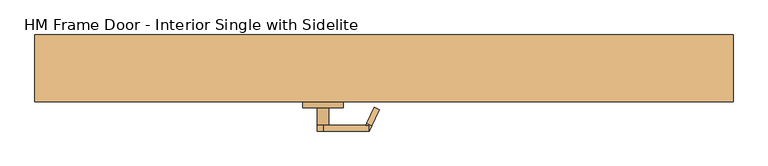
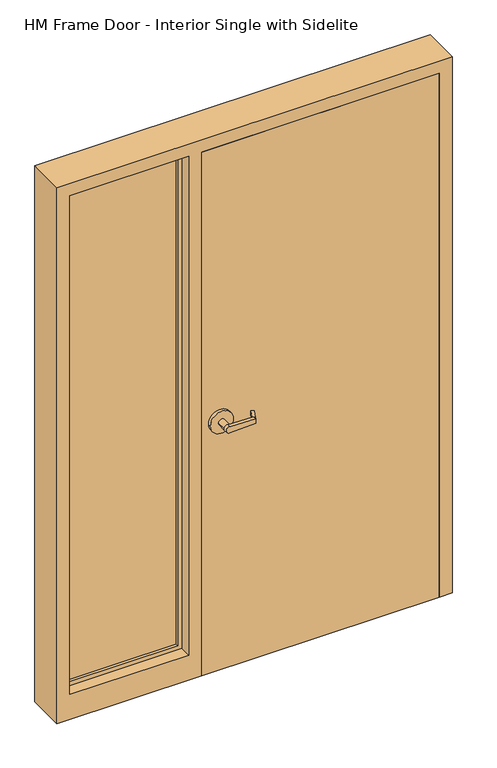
"""IFC4 building model written with IfcOpenShell, lengths in millimetres: door geometry."""

from ifc_helpers import new_model, si_unit, frame, origin, origin_with_axes, place, context, project, spatial, polyline, circle_curve, outline, extrude, faceted_brep, source, transform, mapped, element, save
from ifc_brep_helpers import plane_surface, cylinder_surface, advanced_brep


def hm_frame_door_interior_single_with_sidelite_94e37508(model_context):
    return source(origin(), model_context, "Body", "SolidModel", [
        advanced_brep(
        [(-291.892857, 18.0476392, 1025.525), (-293.8407923, 22.225, 1025.525), (-293.8407923, 22.225, 1006.475), (-291.892857, 18.0476392, 1006.475), (-275.7911012, -16.4826875, 1009.65), (-275.7911012, -16.4826875, 1022.35), (-285.75, 34.925, 1006.475), (-285.75, 34.925, 1025.525), (-280.3827481, 23.4148911, 1025.525), (-264.2809923, -11.1154356, 1022.35), (-264.2809923, -11.1154356, 1009.65), (-280.3827481, 23.4148911, 1006.475), (-285.75, 22.225, 1025.525), (-285.75, 22.225, 1006.475), (-386.9525418, 34.925, 1003.3062209), (-386.9525418, 34.925, 1028.6937791), (-386.9525418, 22.225, 1028.6937791), (-374.65, 22.225, 1016.0), (-386.9525418, 22.225, 1003.3062209), (-400.05, 22.225, 1016.0), (-374.65, -15.875, 1016.0), (-400.05, -15.875, 1016.0), (-431.8, -15.875, 1016.0), (-342.9, -15.875, 1016.0), (-431.8, -28.575, 1016.0), (-342.9, -28.575, 1016.0)],
        [
            (0, 1),
            (1, 2),
            (2, 3),
            (3, 4),
            (4, 5),
            (5, 0),
            (6, 7),
            (7, 8),
            (8, 9),
            (9, 10),
            (10, 11),
            (11, 6),
            (7, 12),
            (12, 1),
            (0, 8),
            (5, 9),
            (4, 10),
            (3, 11),
            (2, 13),
            (13, 6),
            (6, 14),
            (14, 15, circle_curve(frame((-387.35, 34.925, 1016.0), z_axis=(0.0, 1.0, 0.0), x_axis=(1.0, 0.0, 0.0)), 12.7)),
            (15, 7),
            (12, 16),
            (16, 17, circle_curve(frame((-387.35, 22.225, 1016.0), z_axis=(0.0, 1.0, 0.0), x_axis=(1.0, 0.0, 0.0)), 12.7)),
            (17, 18, circle_curve(frame((-387.35, 22.225, 1016.0), z_axis=(0.0, 1.0, 0.0), x_axis=(1.0, 0.0, 0.0)), 12.7)),
            (18, 13),
            (15, 16),
            (14, 18),
            (18, 19, circle_curve(frame((-387.35, 22.225, 1016.0), z_axis=(0.0, 1.0, 0.0), x_axis=(1.0, 0.0, 0.0)), 12.7)),
            (19, 16, circle_curve(frame((-387.35, 22.225, 1016.0), z_axis=(0.0, 1.0, 0.0), x_axis=(1.0, 0.0, 0.0)), 12.7)),
            (17, 20),
            (20, 21, circle_curve(frame((-387.35, -15.875, 1016.0), z_axis=(0.0, 1.0, 0.0), x_axis=(1.0, 0.0, 0.0)), 12.7)),
            (21, 19),
            (21, 20, circle_curve(frame((-387.35, -15.875, 1016.0), z_axis=(0.0, 1.0, 0.0), x_axis=(1.0, 0.0, 0.0)), 12.7)),
            (22, 23, circle_curve(frame((-387.35, -15.875, 1016.0), z_axis=(0.0, 1.0, 0.0), x_axis=(1.0, 0.0, 0.0)), 44.45)),
            (23, 22, circle_curve(frame((-387.35, -15.875, 1016.0), z_axis=(0.0, 1.0, 0.0), x_axis=(1.0, 0.0, 0.0)), 44.45)),
            (24, 25, circle_curve(frame((-387.35, -28.575, 1016.0), z_axis=(0.0, -1.0, 0.0), x_axis=(1.0, 0.0, 0.0)), 44.45)),
            (25, 24, circle_curve(frame((-387.35, -28.575, 1016.0), z_axis=(0.0, -1.0, 0.0), x_axis=(1.0, 0.0, 0.0)), 44.45)),
            (23, 25),
            (24, 22),
        ],
        [
            plane_surface(frame((-297.2601089, 29.5577481, 1025.525), z_axis=(-0.9063077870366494, -0.4226182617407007, 0.0), x_axis=(0.0, 0.0, 1.0))),
            plane_surface(frame((-285.75, 34.925, 1025.525), z_axis=(0.9063077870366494, 0.4226182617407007, 0.0), x_axis=(0.0, 0.0, -1.0))),
            plane_surface(frame((-297.2601089, 29.5577481, 1025.525), z_axis=(0.0, 0.0, 1.0000000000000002), x_axis=(0.9063077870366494, 0.42261826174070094, 0.0))),
            plane_surface(frame((-291.892857, 18.0476392, 1025.525), z_axis=(0.035096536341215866, -0.07526476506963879, 0.9965457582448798), x_axis=(0.9063077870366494, 0.42261826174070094, 0.0))),
            plane_surface(frame((-275.7911012, -16.4826875, 1022.35), z_axis=(0.42261826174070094, -0.9063077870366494, 0.0), x_axis=(0.9063077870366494, 0.42261826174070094, 0.0))),
            plane_surface(frame((-275.7911012, -16.4826875, 1009.65), z_axis=(0.03509653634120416, -0.07526476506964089, -0.9965457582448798), x_axis=(0.9063077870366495, 0.42261826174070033, 0.0))),
            plane_surface(frame((-291.892857, 18.0476392, 1006.475), z_axis=(0.0, 0.0, -1.0000000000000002), x_axis=(0.9063077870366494, 0.42261826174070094, 0.0))),
            plane_surface(frame((-285.75, 34.925, 1025.525), z_axis=(0.0, 1.0, 0.0), x_axis=(-0.9995101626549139, 0.0, 0.03129592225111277))),
            plane_surface(frame((-285.75, 22.225, 1025.525), z_axis=(0.0, -1.0, 0.0), x_axis=(0.9995101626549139, 0.0, -0.03129592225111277))),
            plane_surface(frame((-285.75, 34.925, 1025.525), z_axis=(0.03129592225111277, 0.0, 0.9995101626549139), x_axis=(0.0, -1.0, 0.0))),
            cylinder_surface(frame((-387.35, 22.225, 1016.0), z_axis=(0.0, 1.0, 0.0), x_axis=(1.0, 0.0, 0.0)), 12.7),
            plane_surface(frame((-386.9525418, 34.925, 1003.3062209), z_axis=(0.03129592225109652, 0.0, -0.9995101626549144), x_axis=(0.0, -1.0, 0.0))),
            cylinder_surface(frame((-387.35, -15.875, 1016.0), z_axis=(0.0, 1.0, 0.0), x_axis=(1.0, 0.0, 0.0)), 12.7),
            plane_surface(frame((-342.9, -15.875, 1016.0), z_axis=(0.0, 1.0, 0.0), x_axis=(0.0, 0.0, 1.0))),
            plane_surface(frame((-342.9, -28.575, 1016.0), z_axis=(0.0, -1.0, 0.0), x_axis=(0.0, 0.0, -1.0))),
            cylinder_surface(frame((-387.35, -28.575, 1016.0), z_axis=(0.0, 1.0, 0.0), x_axis=(1.0, 0.0, 0.0)), 44.45),
        ],
        [
            (0, [[1, 2, 3, 4, 5, 6]]),
            (1, [[7, 8, 9, 10, 11, 12]]),
            (2, [[13, 14, -1, 15, -8]]),
            (3, [[16, -9, -15, -6]]),
            (4, [[17, -10, -16, -5]]),
            (5, [[18, -11, -17, -4]]),
            (6, [[-18, -3, 19, 20, -12]]),
            (7, [[-7, 21, 22, 23]]),
            (8, [[-19, -2, -14, 24, 25, 26, 27]]),
            (9, [[28, -24, -13, -23]]),
            (10, [[29, 30, 31, -28, -22]]),
            (11, [[-20, -27, -29, -21]]),
            (12, [[-30, -26, 32, 33, 34]]),
            (12, [[35, -32, -25, -31, -34]]),
            (13, [[36, 37], [-35, -33]]),
            (14, [[38, 39]]),
            (15, [[40, -38, 41, -37]]),
            (15, [[-41, -39, -40, -36]]),
        ],
    ),
        advanced_brep(
        [(-291.892857, -119.6476392, 1006.475), (-293.8407923, -123.825, 1006.475), (-293.8407923, -123.825, 1025.525), (-291.892857, -119.6476392, 1025.525), (-275.7911012, -85.1173125, 1022.35), (-275.7911012, -85.1173125, 1009.65), (-285.75, -136.525, 1025.525), (-285.75, -136.525, 1006.475), (-280.3827481, -125.0148911, 1006.475), (-264.2809923, -90.4845644, 1009.65), (-264.2809923, -90.4845644, 1022.35), (-280.3827481, -125.0148911, 1025.525), (-285.75, -123.825, 1006.475), (-285.75, -123.825, 1025.525), (-386.9525418, -136.525, 1028.6937791), (-386.9525418, -136.525, 1003.3062209), (-386.9525418, -123.825, 1003.3062209), (-374.65, -123.825, 1016.0), (-386.9525418, -123.825, 1028.6937791), (-400.05, -123.825, 1016.0), (-374.65, -85.725, 1016.0), (-400.05, -85.725, 1016.0), (-431.8, -85.725, 1016.0), (-342.9, -85.725, 1016.0), (-431.8, -73.025, 1016.0), (-342.9, -73.025, 1016.0)],
        [
            (0, 1),
            (1, 2),
            (2, 3),
            (3, 4),
            (4, 5),
            (5, 0),
            (6, 7),
            (7, 8),
            (8, 9),
            (9, 10),
            (10, 11),
            (11, 6),
            (7, 12),
            (12, 1),
            (0, 8),
            (5, 9),
            (4, 10),
            (3, 11),
            (2, 13),
            (13, 6),
            (6, 14),
            (14, 15, circle_curve(frame((-387.35, -136.525, 1016.0), z_axis=(0.0, -1.0, 0.0), x_axis=(1.0, 0.0, 0.0)), 12.7)),
            (15, 7),
            (12, 16),
            (16, 17, circle_curve(frame((-387.35, -123.825, 1016.0), z_axis=(0.0, -1.0, 0.0), x_axis=(1.0, 0.0, 0.0)), 12.7)),
            (17, 18, circle_curve(frame((-387.35, -123.825, 1016.0), z_axis=(0.0, -1.0, 0.0), x_axis=(1.0, 0.0, 0.0)), 12.7)),
            (18, 13),
            (15, 16),
            (14, 18),
            (18, 19, circle_curve(frame((-387.35, -123.825, 1016.0), z_axis=(0.0, -1.0, 0.0), x_axis=(1.0, 0.0, 0.0)), 12.7)),
            (19, 16, circle_curve(frame((-387.35, -123.825, 1016.0), z_axis=(0.0, -1.0, 0.0), x_axis=(1.0, 0.0, 0.0)), 12.7)),
            (17, 20),
            (20, 21, circle_curve(frame((-387.35, -85.725, 1016.0), z_axis=(0.0, -1.0, 0.0), x_axis=(1.0, 0.0, 0.0)), 12.7)),
            (21, 19),
            (21, 20, circle_curve(frame((-387.35, -85.725, 1016.0), z_axis=(0.0, -1.0, 0.0), x_axis=(1.0, 0.0, 0.0)), 12.7)),
            (22, 23, circle_curve(frame((-387.35, -85.725, 1016.0), z_axis=(0.0, -1.0, 0.0), x_axis=(1.0, 0.0, 0.0)), 44.45)),
            (23, 22, circle_curve(frame((-387.35, -85.725, 1016.0), z_axis=(0.0, -1.0, 0.0), x_axis=(1.0, 0.0, 0.0)), 44.45)),
            (24, 25, circle_curve(frame((-387.35, -73.025, 1016.0), z_axis=(0.0, 1.0, 0.0), x_axis=(1.0, 0.0, 0.0)), 44.45)),
            (25, 24, circle_curve(frame((-387.35, -73.025, 1016.0), z_axis=(0.0, 1.0, 0.0), x_axis=(1.0, 0.0, 0.0)), 44.45)),
            (23, 25),
            (24, 22),
        ],
        [
            plane_surface(frame((-297.2601089, -131.1577481, 1006.475), z_axis=(-0.9063077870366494, 0.4226182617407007, 0.0), x_axis=(0.0, 0.0, -1.0))),
            plane_surface(frame((-285.75, -136.525, 1006.475), z_axis=(0.9063077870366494, -0.4226182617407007, 0.0), x_axis=(0.0, 0.0, 1.0))),
            plane_surface(frame((-297.2601089, -131.1577481, 1006.475), z_axis=(0.0, 0.0, -1.0000000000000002), x_axis=(0.9063077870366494, -0.42261826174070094, 0.0))),
            plane_surface(frame((-291.892857, -119.6476392, 1006.475), z_axis=(0.03509653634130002, 0.07526476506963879, -0.9965457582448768), x_axis=(0.9063077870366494, -0.42261826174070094, 0.0))),
            plane_surface(frame((-275.7911012, -85.1173125, 1009.65), z_axis=(0.42261826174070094, 0.9063077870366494, 0.0), x_axis=(0.9063077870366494, -0.42261826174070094, 0.0))),
            plane_surface(frame((-275.7911012, -85.1173125, 1022.35), z_axis=(0.03509653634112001, 0.07526476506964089, 0.9965457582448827), x_axis=(0.9063077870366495, -0.42261826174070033, 0.0))),
            plane_surface(frame((-291.892857, -119.6476392, 1025.525), z_axis=(0.0, 0.0, 1.0000000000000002), x_axis=(0.9063077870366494, -0.42261826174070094, 0.0))),
            plane_surface(frame((-285.75, -136.525, 1006.475), z_axis=(0.0, -1.0, 0.0), x_axis=(-0.9995101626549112, 0.0, -0.03129592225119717))),
            plane_surface(frame((-285.75, -123.825, 1006.475), z_axis=(0.0, 1.0, 0.0), x_axis=(0.9995101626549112, 0.0, 0.03129592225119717))),
            plane_surface(frame((-285.75, -136.525, 1006.475), z_axis=(0.03129592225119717, 0.0, -0.9995101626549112), x_axis=(0.0, 1.0, 0.0))),
            cylinder_surface(frame((-387.35, -123.825, 1016.0), z_axis=(0.0, -1.0, 0.0), x_axis=(1.0, 0.0, 0.0)), 12.7),
            plane_surface(frame((-386.9525418, -136.525, 1028.6937791), z_axis=(0.031295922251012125, 0.0, 0.9995101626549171), x_axis=(0.0, 1.0, 0.0))),
            cylinder_surface(frame((-387.35, -85.725, 1016.0), z_axis=(0.0, -1.0, 0.0), x_axis=(1.0, 0.0, 0.0)), 12.7),
            plane_surface(frame((-342.9, -85.725, 1016.0), z_axis=(0.0, -1.0, 0.0), x_axis=(0.0, 0.0, -1.0))),
            plane_surface(frame((-342.9, -73.025, 1016.0), z_axis=(0.0, 1.0, 0.0), x_axis=(0.0, 0.0, 1.0))),
            cylinder_surface(frame((-387.35, -73.025, 1016.0), z_axis=(0.0, -1.0, 0.0), x_axis=(1.0, 0.0, 0.0)), 44.45),
        ],
        [
            (0, [[1, 2, 3, 4, 5, 6]]),
            (1, [[7, 8, 9, 10, 11, 12]]),
            (2, [[13, 14, -1, 15, -8]]),
            (3, [[16, -9, -15, -6]]),
            (4, [[17, -10, -16, -5]]),
            (5, [[18, -11, -17, -4]]),
            (6, [[-18, -3, 19, 20, -12]]),
            (7, [[-7, 21, 22, 23]]),
            (8, [[-19, -2, -14, 24, 25, 26, 27]]),
            (9, [[28, -24, -13, -23]]),
            (10, [[29, 30, 31, -28, -22]]),
            (11, [[-20, -27, -29, -21]]),
            (12, [[-30, -26, 32, 33, 34]]),
            (12, [[35, -32, -25, -31, -34]]),
            (13, [[36, 37], [-35, -33]]),
            (14, [[38, 39]]),
            (15, [[40, -38, 41, -37]]),
            (15, [[-41, -39, -40, -36]]),
        ],
    ),
        extrude(outline(polyline([(-457.2, -73.025), (-457.2, -28.575), (457.2, -28.575), (457.2, -73.025), (-457.2, -73.025)])), origin_with_axes(), (0.0, 0.0, 1.0), 2133.6),
        extrude(outline(polyline([(-523.875, -9.525), (-523.875, -15.875), (-949.325, -15.875), (-949.325, -9.525), (-523.875, -9.525)])), frame((0.0, 0.0, 117.475), z_axis=(0.0, 0.0, 1.0), x_axis=(1.0, 0.0, 0.0)), (0.0, 0.0, 1.0), 2000.25),
        faceted_brep([(508.0, -73.025, 0.0), (457.2, -73.025, 0.0), (457.2, -28.575, 0.0), (441.325, -28.575, 0.0), (441.325, 28.575, 0.0), (457.2, 28.575, 0.0), (457.2, 73.025, 0.0), (508.0, 73.025, 0.0), (508.0, 73.025, 2184.4), (508.0, -73.025, 2184.4), (457.2, 73.025, 2133.6), (-457.2, 73.025, 2133.6), (-457.2, 73.025, 0.0), (-1016.0, 73.025, 0.0), (-1016.0, 73.025, 2184.4), (-508.0, 73.025, 2133.6), (-965.2, 73.025, 2133.6), (-965.2, 73.025, 101.6), (-508.0, 73.025, 101.6), (457.2, 28.575, 2133.6), (-508.0, 28.575, 2133.6), (-508.0, 28.575, 101.6), (-965.2, 28.575, 101.6), (-965.2, 28.575, 2133.6), (-949.325, 28.575, 2117.725), (-949.325, 28.575, 117.475), (-523.875, 28.575, 117.475), (-523.875, 28.575, 2117.725), (441.325, 28.575, 2117.725), (-441.325, 28.575, 2117.725), (-441.325, 28.575, 0.0), (-457.2, 28.575, 0.0), (-457.2, 28.575, 2133.6), (441.325, -28.575, 2117.725), (-965.2, -28.575, 2133.6), (-965.2, -28.575, 101.6), (-508.0, -28.575, 101.6), (-508.0, -28.575, 2133.6), (-523.875, -28.575, 2117.725), (-523.875, -28.575, 117.475), (-949.325, -28.575, 117.475), (-949.325, -28.575, 2117.725), (457.2, -28.575, 2133.6), (-457.2, -28.575, 2133.6), (-457.2, -28.575, 0.0), (-441.325, -28.575, 0.0), (-441.325, -28.575, 2117.725), (457.2, -73.025, 2133.6), (-1016.0, -73.025, 2184.4), (-1016.0, -73.025, 0.0), (-457.2, -73.025, 0.0), (-457.2, -73.025, 2133.6), (-965.2, -73.025, 2133.6), (-508.0, -73.025, 2133.6), (-508.0, -73.025, 101.6), (-965.2, -73.025, 101.6)], [[[0, 1, 2, 3, 4, 5, 6, 7]], [[7, 8, 9, 0]], [[6, 10, 11, 12, 13, 14, 8, 7], [15, 16, 17, 18]], [[5, 19, 10, 6]], [[20, 21, 22, 23], [24, 25, 26, 27]], [[4, 28, 29, 30, 31, 32, 19, 5]], [[3, 33, 28, 4]], [[34, 35, 36, 37], [38, 39, 40, 41]], [[2, 42, 43, 44, 45, 46, 33, 3]], [[1, 47, 42, 2]], [[0, 9, 48, 49, 50, 51, 47, 1], [52, 53, 54, 55]], [[15, 18, 21, 20]], [[17, 22, 21, 18]], [[22, 17, 16, 23]], [[13, 49, 48, 14]], [[12, 31, 30, 45, 44, 50, 49, 13]], [[12, 11, 32, 31]], [[27, 26, 39, 38]], [[25, 40, 39, 26]], [[41, 40, 25, 24]], [[30, 29, 46, 45]], [[36, 54, 53, 37]], [[54, 36, 35, 55]], [[52, 55, 35, 34]], [[44, 43, 51, 50]], [[8, 14, 48, 9]], [[16, 15, 20, 23]], [[19, 32, 11, 10]], [[24, 27, 38, 41]], [[33, 46, 29, 28]], [[34, 37, 53, 52]], [[47, 51, 43, 42]]]),
    ])


if __name__ == "__main__":
    model = new_model("IFC4")
    model_context = context("Model", 3, world=origin())
    ifc_project = project(units=[si_unit("LENGTHUNIT", "METRE", prefix="MILLI")], contexts=[model_context])
    site = spatial("IfcSite", under=ifc_project)
    building = spatial("IfcBuilding", under=site)
    placement = place(None, origin())
    hm_frame_door_interior_single_with_sidelite_shape = hm_frame_door_interior_single_with_sidelite_94e37508(model_context)
    element("IfcDoor", 1, ObjectType="HM Frame Door - Interior Single with Sidelite : 36\" x 84\" x 5.75\" x 18\" Lite_Wood", at=placement, inside=building, context=model_context, shape_type="MappedRepresentation", body=[
        mapped(hm_frame_door_interior_single_with_sidelite_shape, transform((0.0, 0.0, 0.0), x_axis=(1.0, 0.0, 0.0), y_axis=(0.0, 1.0, 0.0), z_axis=(0.0, 0.0, 1.0))),
    ])
    save(model, "model.ifc")
